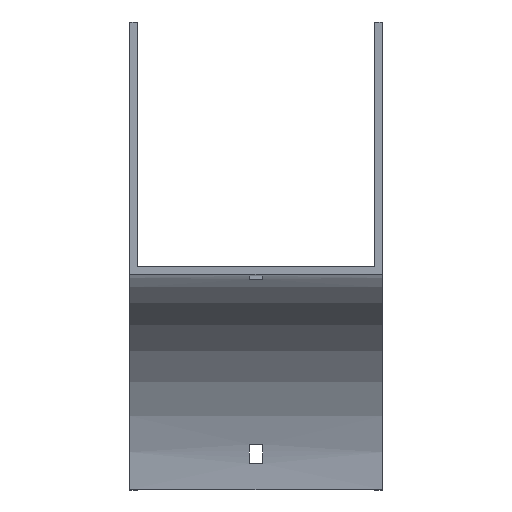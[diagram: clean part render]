
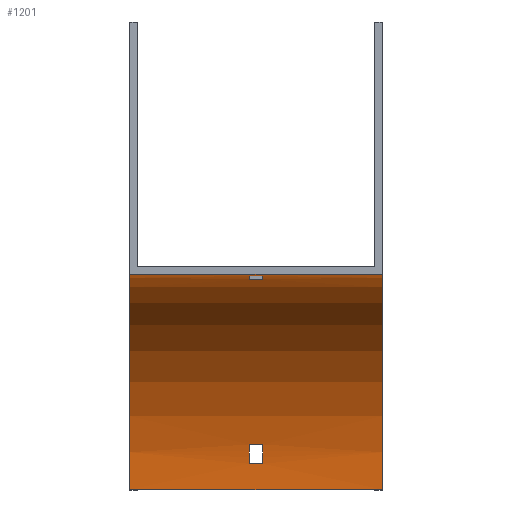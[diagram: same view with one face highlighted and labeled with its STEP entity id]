
A CAD part, top view. The second image highlights one B-rep face of the part: STEP entity #1201.
In plain terms, the highlighted cylindrical face has radius 100 mm (diameter 200 mm), a partial arc.
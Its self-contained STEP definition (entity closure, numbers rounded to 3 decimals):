
#15 = CARTESIAN_POINT ( 'NONE',  ( 58.75, 0., 0. ) ) ;
#59 = VERTEX_POINT ( 'NONE', #1473 ) ;
#60 = DIRECTION ( 'NONE',  ( -1., 0., 0. ) ) ;
#66 = AXIS2_PLACEMENT_3D ( 'NONE', #1266, #1500, #330 ) ;
#71 = CARTESIAN_POINT ( 'NONE',  ( 58.75, -0.723, -12. ) ) ;
#72 = VERTEX_POINT ( 'NONE', #577 ) ;
#74 = CARTESIAN_POINT ( 'NONE',  ( -3.25, -100., 0. ) ) ;
#80 = FACE_OUTER_BOUND ( 'NONE', #1032, .T. ) ;
#115 = VECTOR ( 'NONE', #832, 1000. ) ;
#137 = CARTESIAN_POINT ( 'NONE',  ( 3.25, -100., 0. ) ) ;
#170 = VERTEX_POINT ( 'NONE', #435 ) ;
#172 = CARTESIAN_POINT ( 'NONE',  ( -58.75, -100., -100. ) ) ;
#234 = LINE ( 'NONE', #758, #641 ) ;
#263 = EDGE_CURVE ( 'NONE', #349, #760, #754, .T. ) ;
#269 = CARTESIAN_POINT ( 'NONE',  ( -3.25, -2.23, -21. ) ) ;
#279 = DIRECTION ( 'NONE',  ( -1., 0., 0. ) ) ;
#298 = VERTEX_POINT ( 'NONE', #519 ) ;
#299 = LINE ( 'NONE', #655, #1459 ) ;
#309 = CARTESIAN_POINT ( 'NONE',  ( 58.75, -2.23, -21. ) ) ;
#317 = CARTESIAN_POINT ( 'NONE',  ( 58.75, -100., 0. ) ) ;
#330 = DIRECTION ( 'NONE',  ( 0., 1., 0. ) ) ;
#339 = ORIENTED_EDGE ( 'NONE', *, *, #871, .F. ) ;
#346 = DIRECTION ( 'NONE',  ( -1., 0., 0. ) ) ;
#349 = VERTEX_POINT ( 'NONE', #269 ) ;
#360 = EDGE_CURVE ( 'NONE', #851, #59, #1683, .T. ) ;
#423 = CIRCLE ( 'NONE', #1180, 100. ) ;
#426 = VECTOR ( 'NONE', #60, 1000. ) ;
#433 = DIRECTION ( 'NONE',  ( 1., 0., 0. ) ) ;
#435 = CARTESIAN_POINT ( 'NONE',  ( -3.25, -79., -97.77 ) ) ;
#446 = ORIENTED_EDGE ( 'NONE', *, *, #569, .F. ) ;
#448 = CARTESIAN_POINT ( 'NONE',  ( -3.25, -88., -99.277 ) ) ;
#516 = DIRECTION ( 'NONE',  ( -1., 0., 0. ) ) ;
#519 = CARTESIAN_POINT ( 'NONE',  ( 58.75, -100., -100. ) ) ;
#537 = DIRECTION ( 'NONE',  ( 1., 0., 0. ) ) ;
#554 = EDGE_CURVE ( 'NONE', #298, #1401, #234, .T. ) ;
#569 = EDGE_CURVE ( 'NONE', #1116, #170, #1643, .T. ) ;
#577 = CARTESIAN_POINT ( 'NONE',  ( 3.25, -2.23, -21. ) ) ;
#588 = DIRECTION ( 'NONE',  ( 1., 0., 0. ) ) ;
#599 = ORIENTED_EDGE ( 'NONE', *, *, #911, .T. ) ;
#603 = CARTESIAN_POINT ( 'NONE',  ( 58.75, -100., 0. ) ) ;
#605 = ORIENTED_EDGE ( 'NONE', *, *, #1496, .T. ) ;
#608 = DIRECTION ( 'NONE',  ( 1., 0., 0. ) ) ;
#640 = EDGE_CURVE ( 'NONE', #170, #1198, #805, .T. ) ;
#641 = VECTOR ( 'NONE', #346, 1000. ) ;
#650 = AXIS2_PLACEMENT_3D ( 'NONE', #137, #279, #664 ) ;
#655 = CARTESIAN_POINT ( 'NONE',  ( 58.75, -88., -99.277 ) ) ;
#664 = DIRECTION ( 'NONE',  ( 0., 0., -1. ) ) ;
#711 = DIRECTION ( 'NONE',  ( 0., 0., 1. ) ) ;
#748 = EDGE_LOOP ( 'NONE', ( #1176, #446, #339, #1305 ) ) ;
#754 = CIRCLE ( 'NONE', #969, 100. ) ;
#758 = CARTESIAN_POINT ( 'NONE',  ( 58.75, -100., -100. ) ) ;
#760 = VERTEX_POINT ( 'NONE', #1302 ) ;
#761 = ORIENTED_EDGE ( 'NONE', *, *, #360, .T. ) ;
#805 = CIRCLE ( 'NONE', #66, 100. ) ;
#832 = DIRECTION ( 'NONE',  ( -1., 0., 0. ) ) ;
#839 = DIRECTION ( 'NONE',  ( -1., 0., 0. ) ) ;
#851 = VERTEX_POINT ( 'NONE', #1598 ) ;
#853 = LINE ( 'NONE', #71, #1218 ) ;
#871 = EDGE_CURVE ( 'NONE', #1362, #1116, #423, .T. ) ;
#892 = CIRCLE ( 'NONE', #977, 100. ) ;
#911 = EDGE_CURVE ( 'NONE', #72, #349, #1480, .T. ) ;
#918 = ORIENTED_EDGE ( 'NONE', *, *, #1340, .T. ) ;
#939 = CIRCLE ( 'NONE', #650, 100. ) ;
#955 = EDGE_CURVE ( 'NONE', #1198, #1362, #299, .T. ) ;
#967 = FACE_BOUND ( 'NONE', #1671, .T. ) ;
#969 = AXIS2_PLACEMENT_3D ( 'NONE', #74, #608, #1001 ) ;
#977 = AXIS2_PLACEMENT_3D ( 'NONE', #1383, #516, #1127 ) ;
#982 = CARTESIAN_POINT ( 'NONE',  ( 3.25, -88., -99.277 ) ) ;
#984 = EDGE_CURVE ( 'NONE', #1477, #72, #939, .T. ) ;
#991 = ORIENTED_EDGE ( 'NONE', *, *, #1311, .F. ) ;
#1001 = DIRECTION ( 'NONE',  ( 0., 0., 1. ) ) ;
#1028 = DIRECTION ( 'NONE',  ( -1., 0., 0. ) ) ;
#1032 = EDGE_LOOP ( 'NONE', ( #605, #1155, #991, #761 ) ) ;
#1116 = VERTEX_POINT ( 'NONE', #1647 ) ;
#1117 = CARTESIAN_POINT ( 'NONE',  ( 58.75, -79., -97.77 ) ) ;
#1127 = DIRECTION ( 'NONE',  ( 0., 0., 1. ) ) ;
#1155 = ORIENTED_EDGE ( 'NONE', *, *, #554, .F. ) ;
#1176 = ORIENTED_EDGE ( 'NONE', *, *, #640, .F. ) ;
#1180 = AXIS2_PLACEMENT_3D ( 'NONE', #1329, #433, #1489 ) ;
#1184 = CIRCLE ( 'NONE', #1657, 100. ) ;
#1198 = VERTEX_POINT ( 'NONE', #448 ) ;
#1201 = ADVANCED_FACE ( 'NONE', ( #80, #967, #1488 ), #1253, .F. ) ;
#1218 = VECTOR ( 'NONE', #588, 1000. ) ;
#1253 = CYLINDRICAL_SURFACE ( 'NONE', #1685, 100. ) ;
#1266 = CARTESIAN_POINT ( 'NONE',  ( -3.25, -100., 0. ) ) ;
#1302 = CARTESIAN_POINT ( 'NONE',  ( -3.25, -0.723, -12. ) ) ;
#1305 = ORIENTED_EDGE ( 'NONE', *, *, #955, .F. ) ;
#1311 = EDGE_CURVE ( 'NONE', #851, #298, #1184, .T. ) ;
#1329 = CARTESIAN_POINT ( 'NONE',  ( 3.25, -100., 0. ) ) ;
#1340 = EDGE_CURVE ( 'NONE', #760, #1477, #853, .T. ) ;
#1362 = VERTEX_POINT ( 'NONE', #982 ) ;
#1367 = DIRECTION ( 'NONE',  ( 0., 0., 1. ) ) ;
#1383 = CARTESIAN_POINT ( 'NONE',  ( -58.75, -100., 0. ) ) ;
#1401 = VERTEX_POINT ( 'NONE', #172 ) ;
#1435 = ORIENTED_EDGE ( 'NONE', *, *, #263, .T. ) ;
#1459 = VECTOR ( 'NONE', #537, 1000. ) ;
#1473 = CARTESIAN_POINT ( 'NONE',  ( -58.75, 0., 0. ) ) ;
#1477 = VERTEX_POINT ( 'NONE', #1530 ) ;
#1480 = LINE ( 'NONE', #309, #115 ) ;
#1488 = FACE_BOUND ( 'NONE', #748, .T. ) ;
#1489 = DIRECTION ( 'NONE',  ( 0., -1., 0. ) ) ;
#1496 = EDGE_CURVE ( 'NONE', #59, #1401, #892, .T. ) ;
#1500 = DIRECTION ( 'NONE',  ( -1., 0., 0. ) ) ;
#1516 = DIRECTION ( 'NONE',  ( -1., 0., 0. ) ) ;
#1530 = CARTESIAN_POINT ( 'NONE',  ( 3.25, -0.723, -12. ) ) ;
#1592 = VECTOR ( 'NONE', #1028, 1000. ) ;
#1598 = CARTESIAN_POINT ( 'NONE',  ( 58.75, 0., 0. ) ) ;
#1643 = LINE ( 'NONE', #1117, #426 ) ;
#1647 = CARTESIAN_POINT ( 'NONE',  ( 3.25, -79., -97.77 ) ) ;
#1657 = AXIS2_PLACEMENT_3D ( 'NONE', #603, #1516, #1367 ) ;
#1660 = ORIENTED_EDGE ( 'NONE', *, *, #984, .T. ) ;
#1671 = EDGE_LOOP ( 'NONE', ( #599, #1435, #918, #1660 ) ) ;
#1683 = LINE ( 'NONE', #15, #1592 ) ;
#1685 = AXIS2_PLACEMENT_3D ( 'NONE', #317, #839, #711 ) ;
